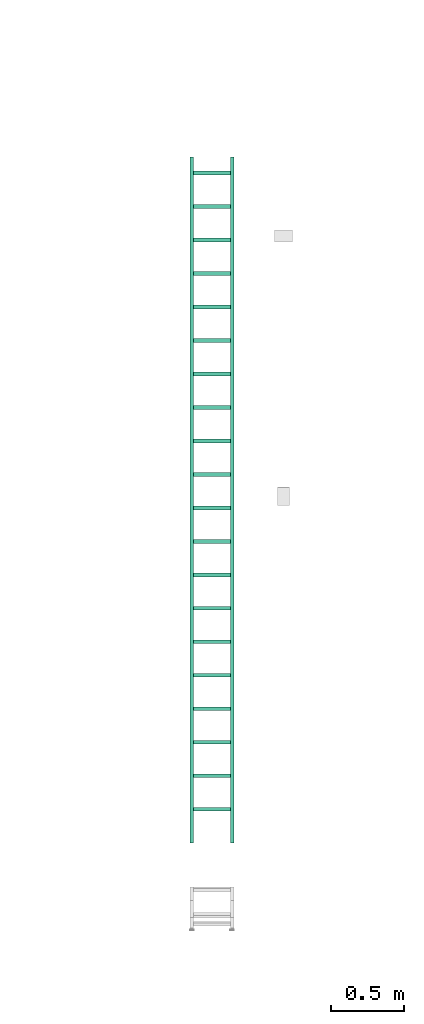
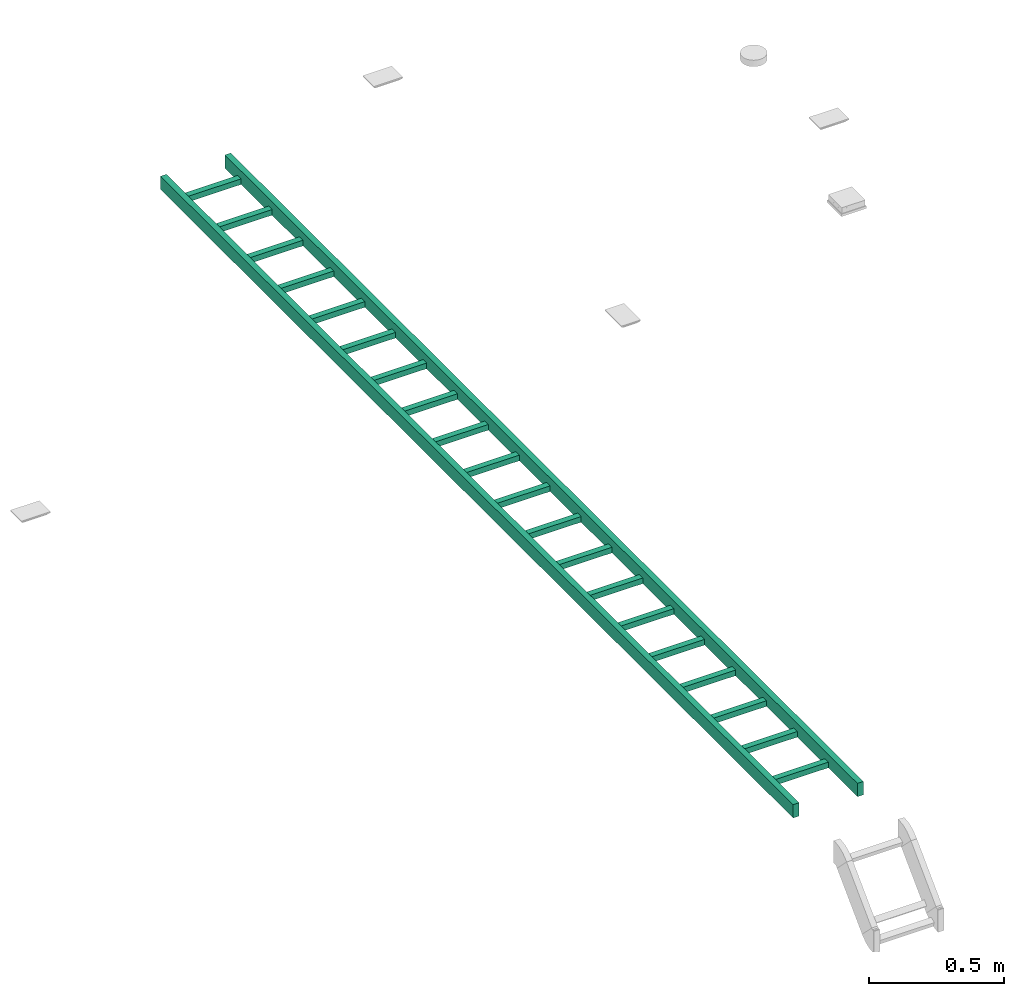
# One storey, part 10 of 14: 1 flow segment.
"""IFC2X3 building model written with IfcOpenShell, lengths in millimetres."""

from ifc_helpers import new_model, entity, si_unit, converted_unit, derived_unit, direction, frame, origin_with_axes, place, context, subcontext, project, spatial, open_shell, surface_model, source, transform, mapped, type_object, element, save


model = new_model("IFC2X3")

# Units and contexts
model_context = context("Model", 3, precision=0.01, world=frame((0.0, 4.29681676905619e-09, 0.0)), true_north=direction((4.01073788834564e-13, 1.0)))
plan_context = context("Plan", 3, precision=0.01, world=frame((0.0, 4.29681676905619e-09, 0.0)), true_north=direction((4.01073788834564e-13, 1.0)))
body_context = subcontext(model_context, "Body", "Model", "MODEL_VIEW")
ifc_project = project(units=[converted_unit("PLANEANGLEUNIT", "DEGREE", entity("IfcPositiveLengthMeasure", 0.0174532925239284), si_unit("PLANEANGLEUNIT", "RADIAN"), dimensions=[0, 0, 0, 0, 0, 0, 0]), si_unit("AREAUNIT", "SQUARE_METRE"), si_unit("LENGTHUNIT", "METRE", prefix="MILLI"), si_unit("MASSUNIT", "GRAM", prefix="KILO"), si_unit("POWERUNIT", "WATT"), si_unit("PRESSUREUNIT", "PASCAL"), si_unit("FORCEUNIT", "NEWTON", prefix="KILO"), si_unit("ELECTRICVOLTAGEUNIT", "VOLT"), si_unit("ELECTRICCURRENTUNIT", "AMPERE"), si_unit("THERMODYNAMICTEMPERATUREUNIT", "DEGREE_CELSIUS"), si_unit("TIMEUNIT", "SECOND"), si_unit("VOLUMEUNIT", "CUBIC_METRE"), derived_unit("LINEARVELOCITYUNIT", [(si_unit("LENGTHUNIT", "METRE"), 1), (si_unit("TIMEUNIT", "SECOND"), -1)]), derived_unit("VOLUMETRICFLOWRATEUNIT", [(si_unit("VOLUMEUNIT", "CUBIC_METRE"), 1), (si_unit("TIMEUNIT", "SECOND"), -1)]), derived_unit("THERMALTRANSMITTANCEUNIT", [(si_unit("POWERUNIT", "WATT"), 1), (si_unit("THERMODYNAMICTEMPERATUREUNIT", "KELVIN"), -1), (si_unit("AREAUNIT", "SQUARE_METRE"), -1)]), derived_unit("SOUNDPRESSUREUNIT", [(si_unit("PRESSUREUNIT", "PASCAL"), 1)])], contexts=[model_context, plan_context])

# Site, building, storey
site_placement = place(None, frame((0.0, -4.29681676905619e-09, 0.0), z_axis=(0.0, 0.0, 1.0), x_axis=(1.0, 0.0, 0.0)))
site = spatial("IfcSite", under=ifc_project, at=site_placement, Name="ENGM", CompositionType="ELEMENT")
building_placement = place(site_placement, frame((0.0, 4.29681676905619e-09, 0.0), z_axis=(0.0, 0.0, 1.0), x_axis=(1.0, 0.0, 0.0)))
building = spatial("IfcBuilding", under=site, at=building_placement, Name="TH", CompositionType="ELEMENT")
storey_placement = place(building_placement, frame((0.0, 0.0, 205200.0), z_axis=(0.0, 0.0, 1.0), x_axis=(1.0, 0.0, 0.0)))
storey = spatial("IfcBuildingStorey", under=building, at=storey_placement, Name="Nivå D + 1,2 m", CompositionType="ELEMENT", Elevation=205200.0)

# Flow segment
cable_carrier_segment_type = type_object("IfcCableCarrierSegmentType", Name="Kabelbro", PredefinedType="CABLELADDERSEGMENT")
shared_shape = source(origin_with_axes(), body_context, "Body", "SurfaceModel", [
    surface_model("IfcShellBasedSurfaceModel", [(241.30001, -124.6, -4.6), (241.30001, -124.6, -30.0), (241.30001, 124.6, -30.0), (241.30001, 124.6, -4.6), (215.89999, -124.6, -4.6), (215.89999, 124.6, -4.6), (215.89999, -124.6, -30.0), (215.89999, 124.6, -30.0), (469.89999, -124.6, -4.6), (469.89999, -124.6, -30.0), (469.89999, 124.6, -30.0), (469.89999, 124.6, -4.6), (444.50001, -124.6, -4.6), (444.50001, 124.6, -4.6), (444.50001, -124.6, -30.0), (444.50001, 124.6, -30.0), (698.50002, -124.6, -4.6), (698.50002, -124.6, -30.0), (698.50002, 124.6, -30.0), (698.50002, 124.6, -4.6), (673.09998, -124.6, -4.6), (673.09998, 124.6, -4.6), (673.09998, -124.6, -30.0), (673.09998, 124.6, -30.0), (927.10002, -124.6, -4.6), (927.10002, -124.6, -30.0), (927.10002, 124.6, -30.0), (927.10002, 124.6, -4.6), (901.69998, -124.6, -4.6), (901.69998, 124.6, -4.6), (901.69998, -124.6, -30.0), (901.69998, 124.6, -30.0), (1155.70002, -124.6, -4.6), (1155.70002, -124.6, -30.0), (1155.70002, 124.6, -30.0), (1155.70002, 124.6, -4.6), (1130.29998, -124.6, -4.6), (1130.29998, 124.6, -4.6), (1130.29998, -124.6, -30.0), (1130.29998, 124.6, -30.0), (1384.29995, -124.6, -4.6), (1384.29995, -124.6, -30.0), (1384.29995, 124.6, -30.0), (1384.29995, 124.6, -4.6), (1358.90005, -124.6, -4.6), (1358.90005, 124.6, -4.6), (1358.90005, -124.6, -30.0), (1358.90005, 124.6, -30.0), (1612.89995, -124.6, -4.6), (1612.89995, -124.6, -30.0), (1612.89995, 124.6, -30.0), (1612.89995, 124.6, -4.6), (1587.50005, -124.6, -4.6), (1587.50005, 124.6, -4.6), (1587.50005, -124.6, -30.0), (1587.50005, 124.6, -30.0), (1841.49995, -124.6, -4.6), (1841.49995, -124.6, -30.0), (1841.49995, 124.6, -30.0), (1841.49995, 124.6, -4.6), (1816.10005, -124.6, -4.6), (1816.10005, 124.6, -4.6), (1816.10005, -124.6, -30.0), (1816.10005, 124.6, -30.0), (2070.09995, -124.6, -4.6), (2070.09995, -124.6, -30.0), (2070.09995, 124.6, -30.0), (2070.09995, 124.6, -4.6), (2044.70005, -124.6, -4.6), (2044.70005, 124.6, -4.6), (2044.70005, -124.6, -30.0), (2044.70005, 124.6, -30.0), (2298.69995, -124.6, -4.6), (2298.69995, -124.6, -30.0), (2298.69995, 124.6, -30.0), (2298.69995, 124.6, -4.6), (2273.30005, -124.6, -4.6), (2273.30005, 124.6, -4.6), (2273.30005, -124.6, -30.0), (2273.30005, 124.6, -30.0), (2527.3001, -124.6, -4.6), (2527.3001, -124.6, -30.0), (2527.3001, 124.6, -30.0), (2527.3001, 124.6, -4.6), (2501.8999, -124.6, -4.6), (2501.8999, 124.6, -4.6), (2501.8999, -124.6, -30.0), (2501.8999, 124.6, -30.0), (2755.9001, -124.6, -4.6), (2755.9001, -124.6, -30.0), (2755.9001, 124.6, -30.0), (2755.9001, 124.6, -4.6), (2730.4999, -124.6, -4.6), (2730.4999, 124.6, -4.6), (2730.4999, -124.6, -30.0), (2730.4999, 124.6, -30.0), (2984.5001, -124.6, -4.6), (2984.5001, -124.6, -30.0), (2984.5001, 124.6, -30.0), (2984.5001, 124.6, -4.6), (2959.0999, -124.6, -4.6), (2959.0999, 124.6, -4.6), (2959.0999, -124.6, -30.0), (2959.0999, 124.6, -30.0), (3213.1001, -124.6, -4.6), (3213.1001, -124.6, -30.0), (3213.1001, 124.6, -30.0), (3213.1001, 124.6, -4.6), (3187.6999, -124.6, -4.6), (3187.6999, 124.6, -4.6), (3187.6999, -124.6, -30.0), (3187.6999, 124.6, -30.0), (3441.7001, -124.6, -4.6), (3441.7001, -124.6, -30.0), (3441.7001, 124.6, -30.0), (3441.7001, 124.6, -4.6), (3416.2999, -124.6, -4.6), (3416.2999, 124.6, -4.6), (3416.2999, -124.6, -30.0), (3416.2999, 124.6, -30.0), (3670.3001, -124.6, -4.6), (3670.3001, -124.6, -30.0), (3670.3001, 124.6, -30.0), (3670.3001, 124.6, -4.6), (3644.8999, -124.6, -4.6), (3644.8999, 124.6, -4.6), (3644.8999, -124.6, -30.0), (3644.8999, 124.6, -30.0), (3898.9001, -124.6, -4.6), (3898.9001, -124.6, -30.0), (3898.9001, 124.6, -30.0), (3898.9001, 124.6, -4.6), (3873.4999, -124.6, -4.6), (3873.4999, 124.6, -4.6), (3873.4999, -124.6, -30.0), (3873.4999, 124.6, -30.0), (4127.5001, -124.6, -4.6), (4127.5001, -124.6, -30.0), (4127.5001, 124.6, -30.0), (4127.5001, 124.6, -4.6), (4102.0999, -124.6, -4.6), (4102.0999, 124.6, -4.6), (4102.0999, -124.6, -30.0), (4102.0999, 124.6, -30.0), (4356.1001, -124.6, -4.6), (4356.1001, -124.6, -30.0), (4356.1001, 124.6, -30.0), (4356.1001, 124.6, -4.6), (4330.6999, -124.6, -4.6), (4330.6999, 124.6, -4.6), (4330.6999, -124.6, -30.0), (4330.6999, 124.6, -30.0), (4584.7001, -124.6, -4.6), (4584.7001, -124.6, -30.0), (4584.7001, 124.6, -30.0), (4584.7001, 124.6, -4.6), (4559.2999, -124.6, -4.6), (4559.2999, 124.6, -4.6), (4559.2999, -124.6, -30.0), (4559.2999, 124.6, -30.0), (0.0, -124.6, 30.0), (0.0, -124.6, -30.0), (0.0, -150.0, -30.0), (0.0, -150.0, 30.0), (0.0, 150.0, 30.0), (0.0, 150.0, -30.0), (0.0, 124.6, -30.0), (0.0, 124.6, 30.0), (4679.85853, -150.0, -30.0), (4679.85853, -124.6, -30.0), (4679.85853, -124.6, 30.0), (4679.85853, -150.0, 30.0), (4679.85853, 124.6, -30.0), (4679.85853, 150.0, -30.0), (4679.85853, 150.0, 30.0), (4679.85853, 124.6, 30.0)], [open_shell([[[0, 1, 2]], [[2, 3, 0]], [[4, 0, 5]], [[3, 5, 0]], [[6, 4, 5]], [[5, 7, 6]], [[1, 6, 2]], [[7, 2, 6]], [[8, 9, 10]], [[10, 11, 8]], [[12, 8, 13]], [[11, 13, 8]], [[14, 12, 13]], [[13, 15, 14]], [[9, 14, 10]], [[15, 10, 14]], [[16, 17, 18]], [[18, 19, 16]], [[20, 16, 21]], [[19, 21, 16]], [[22, 20, 21]], [[21, 23, 22]], [[17, 22, 18]], [[23, 18, 22]], [[24, 25, 26]], [[26, 27, 24]], [[28, 24, 29]], [[27, 29, 24]], [[30, 28, 29]], [[29, 31, 30]], [[25, 30, 26]], [[31, 26, 30]], [[32, 33, 34]], [[34, 35, 32]], [[36, 32, 37]], [[35, 37, 32]], [[38, 36, 37]], [[37, 39, 38]], [[33, 38, 34]], [[39, 34, 38]], [[40, 41, 42]], [[42, 43, 40]], [[44, 40, 45]], [[43, 45, 40]], [[46, 44, 45]], [[45, 47, 46]], [[41, 46, 42]], [[47, 42, 46]], [[48, 49, 50]], [[50, 51, 48]], [[52, 48, 53]], [[51, 53, 48]], [[54, 52, 53]], [[53, 55, 54]], [[49, 54, 50]], [[55, 50, 54]], [[56, 57, 58]], [[58, 59, 56]], [[60, 56, 61]], [[59, 61, 56]], [[62, 60, 61]], [[61, 63, 62]], [[57, 62, 58]], [[63, 58, 62]], [[64, 65, 66]], [[66, 67, 64]], [[68, 64, 69]], [[67, 69, 64]], [[70, 68, 69]], [[69, 71, 70]], [[65, 70, 66]], [[71, 66, 70]], [[72, 73, 74]], [[74, 75, 72]], [[76, 72, 77]], [[75, 77, 72]], [[78, 76, 77]], [[77, 79, 78]], [[73, 78, 74]], [[79, 74, 78]], [[80, 81, 82]], [[82, 83, 80]], [[84, 80, 85]], [[83, 85, 80]], [[86, 84, 85]], [[85, 87, 86]], [[81, 86, 82]], [[87, 82, 86]], [[88, 89, 90]], [[90, 91, 88]], [[92, 88, 93]], [[91, 93, 88]], [[94, 92, 93]], [[93, 95, 94]], [[89, 94, 90]], [[95, 90, 94]], [[96, 97, 98]], [[98, 99, 96]], [[100, 96, 101]], [[99, 101, 96]], [[102, 100, 101]], [[101, 103, 102]], [[97, 102, 98]], [[103, 98, 102]], [[104, 105, 106]], [[106, 107, 104]], [[108, 104, 109]], [[107, 109, 104]], [[110, 108, 109]], [[109, 111, 110]], [[105, 110, 106]], [[111, 106, 110]], [[112, 113, 114]], [[114, 115, 112]], [[116, 112, 117]], [[115, 117, 112]], [[118, 116, 117]], [[117, 119, 118]], [[113, 118, 114]], [[119, 114, 118]], [[120, 121, 122]], [[122, 123, 120]], [[124, 120, 125]], [[123, 125, 120]], [[126, 124, 125]], [[125, 127, 126]], [[121, 126, 122]], [[127, 122, 126]], [[128, 129, 130]], [[130, 131, 128]], [[132, 128, 133]], [[131, 133, 128]], [[134, 132, 133]], [[133, 135, 134]], [[129, 134, 130]], [[135, 130, 134]], [[136, 137, 138]], [[138, 139, 136]], [[140, 136, 141]], [[139, 141, 136]], [[142, 140, 141]], [[141, 143, 142]], [[137, 142, 138]], [[143, 138, 142]], [[144, 145, 146]], [[146, 147, 144]], [[148, 144, 149]], [[147, 149, 144]], [[150, 148, 149]], [[149, 151, 150]], [[145, 150, 146]], [[151, 146, 150]], [[152, 153, 154]], [[154, 155, 152]], [[156, 152, 157]], [[155, 157, 152]], [[158, 156, 157]], [[157, 159, 158]], [[153, 158, 154]], [[159, 154, 158]], [[160, 161, 162]], [[162, 163, 160]], [[164, 165, 166]], [[166, 167, 164]], [[6, 1, 0]], [[0, 4, 6]], [[3, 2, 7]], [[7, 5, 3]], [[14, 9, 8]], [[8, 12, 14]], [[11, 10, 15]], [[15, 13, 11]], [[22, 17, 16]], [[16, 20, 22]], [[19, 18, 23]], [[23, 21, 19]], [[30, 25, 24]], [[24, 28, 30]], [[27, 26, 31]], [[31, 29, 27]], [[38, 33, 32]], [[32, 36, 38]], [[35, 34, 39]], [[39, 37, 35]], [[46, 41, 40]], [[40, 44, 46]], [[43, 42, 47]], [[47, 45, 43]], [[54, 49, 48]], [[48, 52, 54]], [[51, 50, 55]], [[55, 53, 51]], [[62, 57, 56]], [[56, 60, 62]], [[59, 58, 63]], [[63, 61, 59]], [[70, 65, 64]], [[64, 68, 70]], [[67, 66, 71]], [[71, 69, 67]], [[78, 73, 72]], [[72, 76, 78]], [[75, 74, 79]], [[79, 77, 75]], [[86, 81, 80]], [[80, 84, 86]], [[83, 82, 87]], [[87, 85, 83]], [[94, 89, 88]], [[88, 92, 94]], [[91, 90, 95]], [[95, 93, 91]], [[102, 97, 96]], [[96, 100, 102]], [[99, 98, 103]], [[103, 101, 99]], [[110, 105, 104]], [[104, 108, 110]], [[107, 106, 111]], [[111, 109, 107]], [[118, 113, 112]], [[112, 116, 118]], [[115, 114, 119]], [[119, 117, 115]], [[126, 121, 120]], [[120, 124, 126]], [[123, 122, 127]], [[127, 125, 123]], [[134, 129, 128]], [[128, 132, 134]], [[131, 130, 135]], [[135, 133, 131]], [[142, 137, 136]], [[136, 140, 142]], [[139, 138, 143]], [[143, 141, 139]], [[150, 145, 144]], [[144, 148, 150]], [[147, 146, 151]], [[151, 149, 147]], [[158, 153, 152]], [[152, 156, 158]], [[155, 154, 159]], [[159, 157, 155]], [[168, 169, 170]], [[170, 171, 168]], [[172, 173, 174]], [[174, 175, 172]], [[163, 162, 171]], [[168, 171, 162]], [[160, 163, 171]], [[171, 170, 160]], [[161, 160, 170]], [[170, 169, 161]], [[162, 161, 169]], [[169, 168, 162]], [[165, 164, 174]], [[174, 173, 165]], [[166, 165, 173]], [[173, 172, 166]], [[167, 166, 175]], [[172, 175, 166]], [[164, 167, 175]], [[175, 174, 164]]])]),
])
flow_segment_placement = place(storey_placement, frame((907474.6375, 478967.32897, 4345.29999999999), z_axis=(0.0, 0.0, 1.0), x_axis=(0.0, 1.0, 0.0)))
element("IfcFlowSegment", 1, at=flow_segment_placement, inside=storey, type_object=cable_carrier_segment_type, Name="Kabelbro", context=body_context, shape_type="MappedRepresentation", body=[
    mapped(shared_shape, transform((0.0, 0.0, 0.0), scale=1.0)),
])

save(model, "model.ifc")
